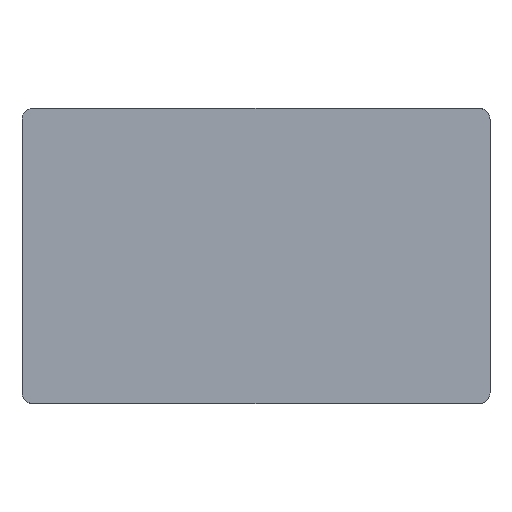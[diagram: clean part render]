
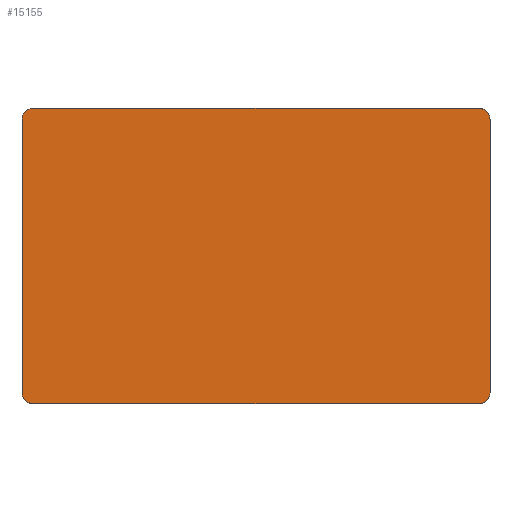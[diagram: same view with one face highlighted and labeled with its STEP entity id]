
A CAD part, top view. The second image highlights one B-rep face of the part: STEP entity #15155.
In plain terms, the highlighted planar face has unit normal (0, 0, 1).
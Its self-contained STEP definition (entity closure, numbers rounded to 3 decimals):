
#433 = EDGE_CURVE ( 'NONE', #44200, #23382, #38807, .T. ) ;
#479 = VERTEX_POINT ( 'NONE', #18583 ) ;
#1566 = CARTESIAN_POINT ( 'NONE',  ( 95.874, 44.919, 120.435 ) ) ;
#1568 = ORIENTED_EDGE ( 'NONE', *, *, #22383, .T. ) ;
#1688 = CARTESIAN_POINT ( 'NONE',  ( -12.047, 110.128, 120.435 ) ) ;
#1899 = CARTESIAN_POINT ( 'NONE',  ( 94.949, 111.662, 120.435 ) ) ;
#2060 = EDGE_CURVE ( 'NONE', #479, #16685, #36090, .T. ) ;
#2106 = CARTESIAN_POINT ( 'NONE',  ( -12.111, 109.478, 120.435 ) ) ;
#2506 = CARTESIAN_POINT ( 'NONE',  ( -9.611, 111.978, 120.435 ) ) ;
#3949 = CARTESIAN_POINT ( 'NONE',  ( -9.611, 43.678, 120.435 ) ) ;
#4990 = CARTESIAN_POINT ( 'NONE',  ( 59.256, 111.978, 120.435 ) ) ;
#5911 = CARTESIAN_POINT ( 'NONE',  ( -9.942, 111.978, 120.435 ) ) ;
#6372 = EDGE_CURVE ( 'NONE', #479, #31843, #44551, .T. ) ;
#6453 = CARTESIAN_POINT ( 'NONE',  ( -12.111, 109.809, 120.435 ) ) ;
#7640 = CARTESIAN_POINT ( 'NONE',  ( 93.689, 43.678, 120.435 ) ) ;
#8220 = ORIENTED_EDGE ( 'NONE', *, *, #9875, .T. ) ;
#9200 = ORIENTED_EDGE ( 'NONE', *, *, #24717, .T. ) ;
#9268 = ORIENTED_EDGE ( 'NONE', *, *, #20029, .F. ) ;
#9564 = B_SPLINE_CURVE_WITH_KNOTS ( 'NONE', 3,
 ( #39391, #51809, #34634, #47595 ),
 .UNSPECIFIED., .F., .F.,
 ( 4, 4 ),
 ( 0., 1. ),
 .UNSPECIFIED. ) ;
#9680 = ORIENTED_EDGE ( 'NONE', *, *, #2060, .F. ) ;
#9875 = EDGE_CURVE ( 'NONE', #28853, #44200, #11702, .T. ) ;
#10115 = CARTESIAN_POINT ( 'NONE',  ( 96.189, 88.378, 120.435 ) ) ;
#10323 = ORIENTED_EDGE ( 'NONE', *, *, #19777, .F. ) ;
#11129 = CARTESIAN_POINT ( 'NONE',  ( 93.689, 43.678, 120.435 ) ) ;
#11702 = B_SPLINE_CURVE_WITH_KNOTS ( 'NONE', 3,
 ( #20176, #4990, #46891, #26292 ),
 .UNSPECIFIED., .F., .F.,
 ( 4, 4 ),
 ( 0., 1. ),
 .UNSPECIFIED. ) ;
#11796 = CARTESIAN_POINT ( 'NONE',  ( -9.611, 111.978, 120.435 ) ) ;
#15068 = CARTESIAN_POINT ( 'NONE',  ( 95.689, 44.641, 120.435 ) ) ;
#15118 = ORIENTED_EDGE ( 'NONE', *, *, #6372, .T. ) ;
#15155 = ADVANCED_FACE ( 'NONE', ( #54013 ), #41289, .T. ) ;
#15336 = CARTESIAN_POINT ( 'NONE',  ( 95.226, 44.178, 120.435 ) ) ;
#16685 = VERTEX_POINT ( 'NONE', #7640 ) ;
#16893 = CARTESIAN_POINT ( 'NONE',  ( -11.147, 44.178, 120.435 ) ) ;
#18343 = VERTEX_POINT ( 'NONE', #29886 ) ;
#18583 = CARTESIAN_POINT ( 'NONE',  ( 96.189, 46.178, 120.435 ) ) ;
#18646 = CARTESIAN_POINT ( 'NONE',  ( -12.045, 45.523, 120.435 ) ) ;
#19052 = CARTESIAN_POINT ( 'NONE',  ( 95.226, 111.477, 120.435 ) ) ;
#19407 = CARTESIAN_POINT ( 'NONE',  ( -11.612, 111.011, 120.435 ) ) ;
#19777 = EDGE_CURVE ( 'NONE', #28853, #31843, #30720, .T. ) ;
#20029 = EDGE_CURVE ( 'NONE', #18343, #33713, #38765, .T. ) ;
#20176 = CARTESIAN_POINT ( 'NONE',  ( 93.689, 111.978, 120.435 ) ) ;
#20913 = CARTESIAN_POINT ( 'NONE',  ( 96.189, 109.478, 120.435 ) ) ;
#21089 = CARTESIAN_POINT ( 'NONE',  ( -9.938, 43.678, 120.435 ) ) ;
#22383 = EDGE_CURVE ( 'NONE', #18343, #16685, #40627, .T. ) ;
#22770 = CARTESIAN_POINT ( 'NONE',  ( -10.873, 111.661, 120.435 ) ) ;
#23382 = VERTEX_POINT ( 'NONE', #2106 ) ;
#23719 = CARTESIAN_POINT ( 'NONE',  ( 96.124, 45.523, 120.435 ) ) ;
#23850 = CARTESIAN_POINT ( 'NONE',  ( -10.261, 111.914, 120.435 ) ) ;
#24051 = CARTESIAN_POINT ( 'NONE',  ( 96.124, 110.132, 120.435 ) ) ;
#24717 = EDGE_CURVE ( 'NONE', #23382, #33713, #9564, .T. ) ;
#26292 = CARTESIAN_POINT ( 'NONE',  ( -9.611, 111.978, 120.435 ) ) ;
#26891 = CARTESIAN_POINT ( 'NONE',  ( 94.344, 111.912, 120.435 ) ) ;
#27454 = AXIS2_PLACEMENT_3D ( 'NONE', #32874, #28656, #45816 ) ;
#27654 = CARTESIAN_POINT ( 'NONE',  ( 96.189, 45.85, 120.435 ) ) ;
#27785 = CARTESIAN_POINT ( 'NONE',  ( -11.793, 110.74, 120.435 ) ) ;
#27856 = CARTESIAN_POINT ( 'NONE',  ( -11.795, 44.919, 120.435 ) ) ;
#28213 = CARTESIAN_POINT ( 'NONE',  ( 59.256, 43.678, 120.435 ) ) ;
#28656 = DIRECTION ( 'NONE',  ( 0., 0., 1. ) ) ;
#28761 = CARTESIAN_POINT ( 'NONE',  ( 93.689, 43.678, 120.435 ) ) ;
#28853 = VERTEX_POINT ( 'NONE', #45917 ) ;
#29886 = CARTESIAN_POINT ( 'NONE',  ( -9.611, 43.678, 120.435 ) ) ;
#30720 = B_SPLINE_CURVE_WITH_KNOTS ( 'NONE', 3,
 ( #44602, #40352, #26891, #1899, #19052, #36146, #40651, #24051, #37279, #32231 ),
 .UNSPECIFIED., .F., .F.,
 ( 4, 2, 2, 2, 4 ),
 ( 0., 0.25, 0.5, 0.75, 1. ),
 .UNSPECIFIED. ) ;
#31269 = CARTESIAN_POINT ( 'NONE',  ( -12.111, 46.178, 120.435 ) ) ;
#31843 = VERTEX_POINT ( 'NONE', #46651 ) ;
#32117 = EDGE_LOOP ( 'NONE', ( #10323, #8220, #40436, #9200, #9268, #1568, #9680, #15118 ) ) ;
#32231 = CARTESIAN_POINT ( 'NONE',  ( 96.189, 109.478, 120.435 ) ) ;
#32450 = CARTESIAN_POINT ( 'NONE',  ( 94.344, 43.743, 120.435 ) ) ;
#32874 = CARTESIAN_POINT ( 'NONE',  ( -9.611, 109.478, 120.435 ) ) ;
#33713 = VERTEX_POINT ( 'NONE', #52977 ) ;
#34634 = CARTESIAN_POINT ( 'NONE',  ( -12.111, 67.278, 120.435 ) ) ;
#35723 = CARTESIAN_POINT ( 'NONE',  ( -11.61, 44.641, 120.435 ) ) ;
#36090 = B_SPLINE_CURVE_WITH_KNOTS ( 'NONE', 3,
 ( #53593, #27654, #23719, #1566, #15068, #15336, #36921, #32450, #49622, #11129 ),
 .UNSPECIFIED., .F., .F.,
 ( 4, 2, 2, 2, 4 ),
 ( 0., 0.25, 0.5, 0.75, 1. ),
 .UNSPECIFIED. ) ;
#36146 = CARTESIAN_POINT ( 'NONE',  ( 95.689, 111.014, 120.435 ) ) ;
#36345 = CARTESIAN_POINT ( 'NONE',  ( 24.823, 43.678, 120.435 ) ) ;
#36921 = CARTESIAN_POINT ( 'NONE',  ( 94.949, 43.993, 120.435 ) ) ;
#37279 = CARTESIAN_POINT ( 'NONE',  ( 96.189, 109.805, 120.435 ) ) ;
#38212 = CARTESIAN_POINT ( 'NONE',  ( -10.265, 43.743, 120.435 ) ) ;
#38765 = B_SPLINE_CURVE_WITH_KNOTS ( 'NONE', 3,
 ( #3949, #21089, #38212, #55414, #16893, #35723, #27856, #18646, #52656, #31269 ),
 .UNSPECIFIED., .F., .F.,
 ( 4, 2, 2, 2, 4 ),
 ( 0., 0.25, 0.5, 0.75, 1. ),
 .UNSPECIFIED. ) ;
#38807 = B_SPLINE_CURVE_WITH_KNOTS ( 'NONE', 3,
 ( #2506, #5911, #23850, #22770, #52846, #19407, #27785, #1688, #6453, #53444 ),
 .UNSPECIFIED., .F., .F.,
 ( 4, 2, 2, 2, 4 ),
 ( 0., 0.25, 0.5, 0.75, 1. ),
 .UNSPECIFIED. ) ;
#39391 = CARTESIAN_POINT ( 'NONE',  ( -12.111, 109.478, 120.435 ) ) ;
#40352 = CARTESIAN_POINT ( 'NONE',  ( 94.017, 111.978, 120.435 ) ) ;
#40436 = ORIENTED_EDGE ( 'NONE', *, *, #433, .T. ) ;
#40627 = B_SPLINE_CURVE_WITH_KNOTS ( 'NONE', 3,
 ( #41393, #36345, #28213, #28761 ),
 .UNSPECIFIED., .F., .F.,
 ( 4, 4 ),
 ( 0., 1. ),
 .UNSPECIFIED. ) ;
#40651 = CARTESIAN_POINT ( 'NONE',  ( 95.874, 110.737, 120.435 ) ) ;
#41289 = PLANE ( 'NONE',  #27454 ) ;
#41393 = CARTESIAN_POINT ( 'NONE',  ( -9.611, 43.678, 120.435 ) ) ;
#42776 = CARTESIAN_POINT ( 'NONE',  ( 96.189, 67.278, 120.435 ) ) ;
#44200 = VERTEX_POINT ( 'NONE', #11796 ) ;
#44551 = B_SPLINE_CURVE_WITH_KNOTS ( 'NONE', 3,
 ( #47067, #42776, #10115, #20913 ),
 .UNSPECIFIED., .F., .F.,
 ( 4, 4 ),
 ( 0., 1. ),
 .UNSPECIFIED. ) ;
#44602 = CARTESIAN_POINT ( 'NONE',  ( 93.689, 111.978, 120.435 ) ) ;
#45816 = DIRECTION ( 'NONE',  ( 1., 0., 0. ) ) ;
#45917 = CARTESIAN_POINT ( 'NONE',  ( 93.689, 111.978, 120.435 ) ) ;
#46651 = CARTESIAN_POINT ( 'NONE',  ( 96.189, 109.478, 120.435 ) ) ;
#46891 = CARTESIAN_POINT ( 'NONE',  ( 24.823, 111.978, 120.435 ) ) ;
#47067 = CARTESIAN_POINT ( 'NONE',  ( 96.189, 46.178, 120.435 ) ) ;
#47595 = CARTESIAN_POINT ( 'NONE',  ( -12.111, 46.178, 120.435 ) ) ;
#49622 = CARTESIAN_POINT ( 'NONE',  ( 94.017, 43.678, 120.435 ) ) ;
#51809 = CARTESIAN_POINT ( 'NONE',  ( -12.111, 88.378, 120.435 ) ) ;
#52656 = CARTESIAN_POINT ( 'NONE',  ( -12.111, 45.85, 120.435 ) ) ;
#52846 = CARTESIAN_POINT ( 'NONE',  ( -11.144, 111.479, 120.435 ) ) ;
#52977 = CARTESIAN_POINT ( 'NONE',  ( -12.111, 46.178, 120.435 ) ) ;
#53444 = CARTESIAN_POINT ( 'NONE',  ( -12.111, 109.478, 120.435 ) ) ;
#53593 = CARTESIAN_POINT ( 'NONE',  ( 96.189, 46.178, 120.435 ) ) ;
#54013 = FACE_OUTER_BOUND ( 'NONE', #32117, .T. ) ;
#55414 = CARTESIAN_POINT ( 'NONE',  ( -10.87, 43.993, 120.435 ) ) ;
